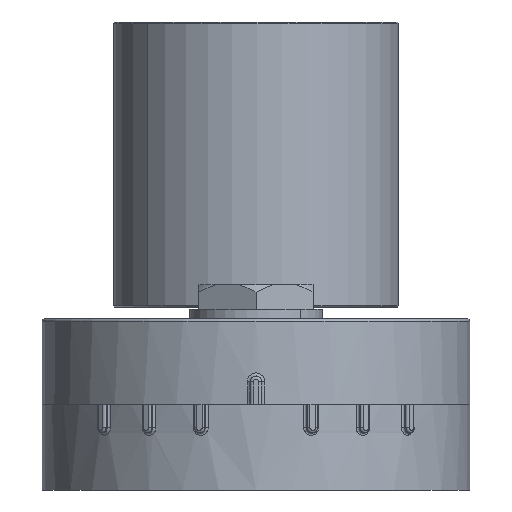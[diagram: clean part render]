
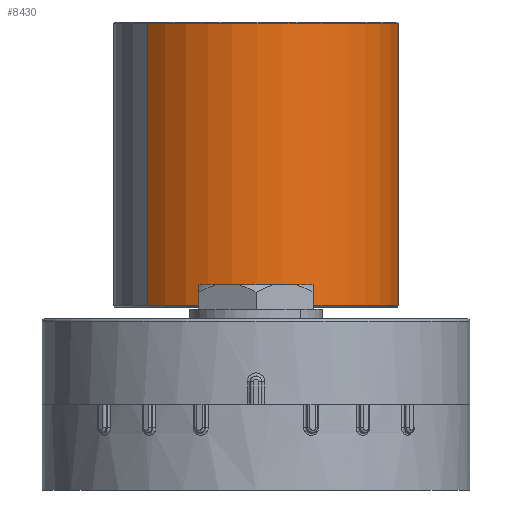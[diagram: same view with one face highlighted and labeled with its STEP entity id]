
A CAD part, front view. The second image highlights one B-rep face of the part: STEP entity #8430.
In plain terms, the highlighted cylindrical face has radius 30 mm (diameter 60 mm), a partial arc.
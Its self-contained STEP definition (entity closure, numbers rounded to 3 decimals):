
#369 = AXIS2_PLACEMENT_3D ( 'NONE', #5017, #7475, #779 ) ;
#552 = DIRECTION ( 'NONE',  ( 0., 0., 1. ) ) ;
#750 = CIRCLE ( 'NONE', #369, 30. ) ;
#779 = DIRECTION ( 'NONE',  ( 0., 0., 1. ) ) ;
#933 = ORIENTED_EDGE ( 'NONE', *, *, #8518, .T. ) ;
#988 = DIRECTION ( 'NONE',  ( 0., -1., 0. ) ) ;
#1328 = FACE_OUTER_BOUND ( 'NONE', #2372, .T. ) ;
#1510 = AXIS2_PLACEMENT_3D ( 'NONE', #5787, #6616, #7422 ) ;
#1636 = VERTEX_POINT ( 'NONE', #8278 ) ;
#2352 = VECTOR ( 'NONE', #988, 1000. ) ;
#2372 = EDGE_LOOP ( 'NONE', ( #10885, #7307, #10203, #933 ) ) ;
#3011 = CIRCLE ( 'NONE', #6198, 30. ) ;
#3097 = VERTEX_POINT ( 'NONE', #5812 ) ;
#3540 = CARTESIAN_POINT ( 'NONE',  ( 0., 30., 30. ) ) ;
#3698 = VERTEX_POINT ( 'NONE', #4557 ) ;
#4288 = EDGE_CURVE ( 'NONE', #3097, #3698, #6677, .T. ) ;
#4543 = CARTESIAN_POINT ( 'NONE',  ( 0., 29.75, 30. ) ) ;
#4557 = CARTESIAN_POINT ( 'NONE',  ( 0., -29.75, -30. ) ) ;
#4676 = DIRECTION ( 'NONE',  ( 0., -1., 0. ) ) ;
#4785 = EDGE_CURVE ( 'NONE', #6028, #3097, #3011, .T. ) ;
#4895 = EDGE_CURVE ( 'NONE', #6028, #1636, #5126, .T. ) ;
#5017 = CARTESIAN_POINT ( 'NONE',  ( 0., -29.75, 0. ) ) ;
#5126 = LINE ( 'NONE', #3540, #2352 ) ;
#5787 = CARTESIAN_POINT ( 'NONE',  ( 0., 30., 0. ) ) ;
#5812 = CARTESIAN_POINT ( 'NONE',  ( 0., 29.75, -30. ) ) ;
#6028 = VERTEX_POINT ( 'NONE', #4543 ) ;
#6198 = AXIS2_PLACEMENT_3D ( 'NONE', #9706, #4676, #552 ) ;
#6297 = CYLINDRICAL_SURFACE ( 'NONE', #1510, 30. ) ;
#6616 = DIRECTION ( 'NONE',  ( 0., -1., 0. ) ) ;
#6677 = LINE ( 'NONE', #10553, #10888 ) ;
#7307 = ORIENTED_EDGE ( 'NONE', *, *, #4785, .T. ) ;
#7422 = DIRECTION ( 'NONE',  ( 0., 0., -1. ) ) ;
#7475 = DIRECTION ( 'NONE',  ( 0., 1., 0. ) ) ;
#8055 = DIRECTION ( 'NONE',  ( 0., -1., 0. ) ) ;
#8278 = CARTESIAN_POINT ( 'NONE',  ( 0., -29.75, 30. ) ) ;
#8430 = ADVANCED_FACE ( 'NONE', ( #1328 ), #6297, .T. ) ;
#8518 = EDGE_CURVE ( 'NONE', #3698, #1636, #750, .T. ) ;
#9706 = CARTESIAN_POINT ( 'NONE',  ( 0., 29.75, 0. ) ) ;
#10203 = ORIENTED_EDGE ( 'NONE', *, *, #4288, .T. ) ;
#10553 = CARTESIAN_POINT ( 'NONE',  ( 0., 30., -30. ) ) ;
#10885 = ORIENTED_EDGE ( 'NONE', *, *, #4895, .F. ) ;
#10888 = VECTOR ( 'NONE', #8055, 1000. ) ;
